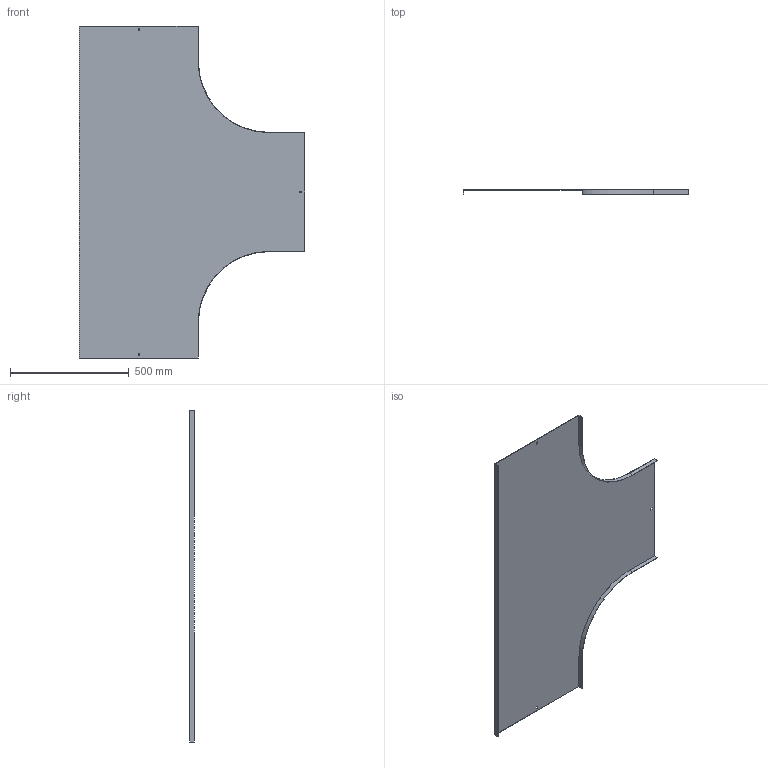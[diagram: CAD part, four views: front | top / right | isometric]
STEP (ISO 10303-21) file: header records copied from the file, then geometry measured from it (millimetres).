
FILE_DESCRIPTION (( 'STEP AP214' ), '1' );
FILE_NAME ('A2_15N3R500.step', '2025-02-21T12:06:38', ( '' ), ( '' ), 'SwSTEP 2.0', 'SolidWorks 2023', '' );
FILE_SCHEMA (( 'AUTOMOTIVE_DESIGN' ));
Length unit declared in the file: millimetre
Products named in the file (1): A2_15N3R500
Bounding box: 951.5 x 20 x 1400 mm (x, y, z)
Volume: 1533382.9 mm3; surface area: 2051486.7 mm2
Topology: 1 solids, 1 shells, 34 faces, 96 edges, 64 vertices
Faces by surface type: plane 30, cylinder 4
Entity records: 1123 total; most frequent: CARTESIAN_POINT 195, ORIENTED_EDGE 192, DIRECTION 174, EDGE_CURVE 96, LINE 88, VECTOR 88, VERTEX_POINT 64, AXIS2_PLACEMENT_3D 43
